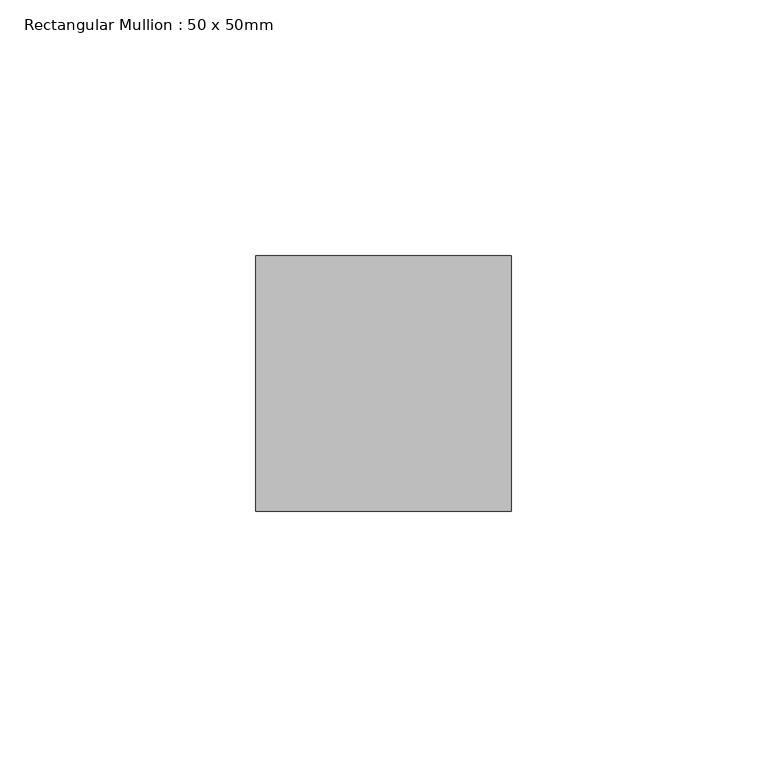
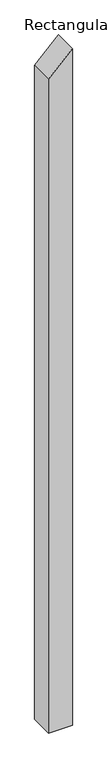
"""IFC4 building model written with IfcOpenShell, lengths in millimetres: member geometry, Rectangular Mullion : 50 x 50mm."""

from ifc_helpers import new_model, si_unit, frame, origin, place, context, project, spatial, polyline, outline, extrude, source, transform, mapped, element, save


def rectangular_mullion_50_x_50mm_f585af09(model_context):
    return source(origin(), model_context, "Body", "SweptSolid", [
        extrude(outline(polyline([(0.0, 0.0), (-50.0000036, -50.0), (-1500.0, -50.0), (-1500.0, 0.0), (0.0, 0.0)])), frame((0.0, 0.0, 0.0), z_axis=(0.0, 1.0, 0.0), x_axis=(0.0, 0.0, 1.0)), (0.0, 0.0, 1.0), 50.0),
    ])


if __name__ == "__main__":
    model = new_model("IFC4")
    model_context = context("Model", 3, world=origin())
    ifc_project = project(units=[si_unit("LENGTHUNIT", "METRE", prefix="MILLI")], contexts=[model_context])
    site = spatial("IfcSite", under=ifc_project)
    building = spatial("IfcBuilding", under=site)
    placement = place(None, origin())
    rectangular_mullion_50_x_50mm_shape = rectangular_mullion_50_x_50mm_f585af09(model_context)
    element("IfcMember", 1, ObjectType="Rectangular Mullion : 50 x 50mm", at=placement, inside=building, context=model_context, shape_type="MappedRepresentation", body=[
        mapped(rectangular_mullion_50_x_50mm_shape, transform((0.0, 0.0, 0.0), x_axis=(1.0, 0.0, 0.0), y_axis=(0.0, 1.0, 0.0), z_axis=(0.0, 0.0, 1.0))),
    ])
    save(model, "model.ifc")
